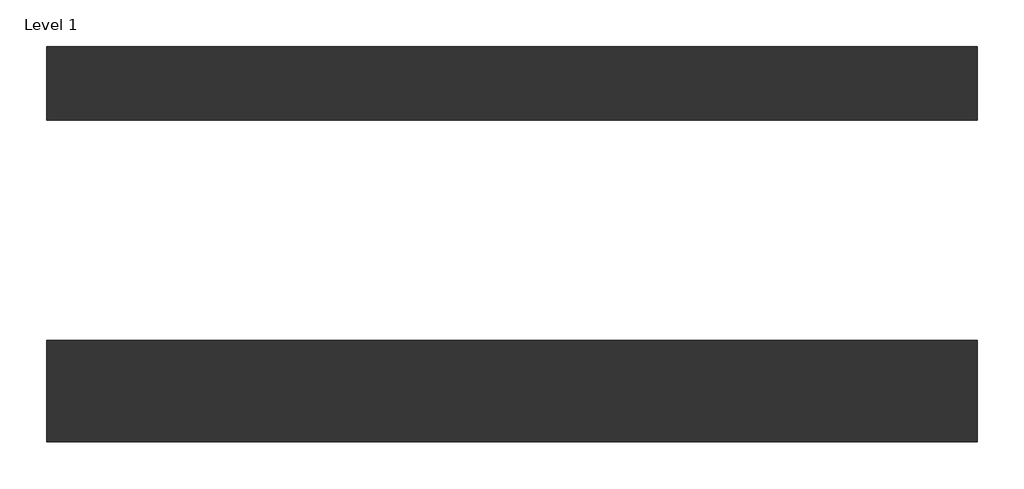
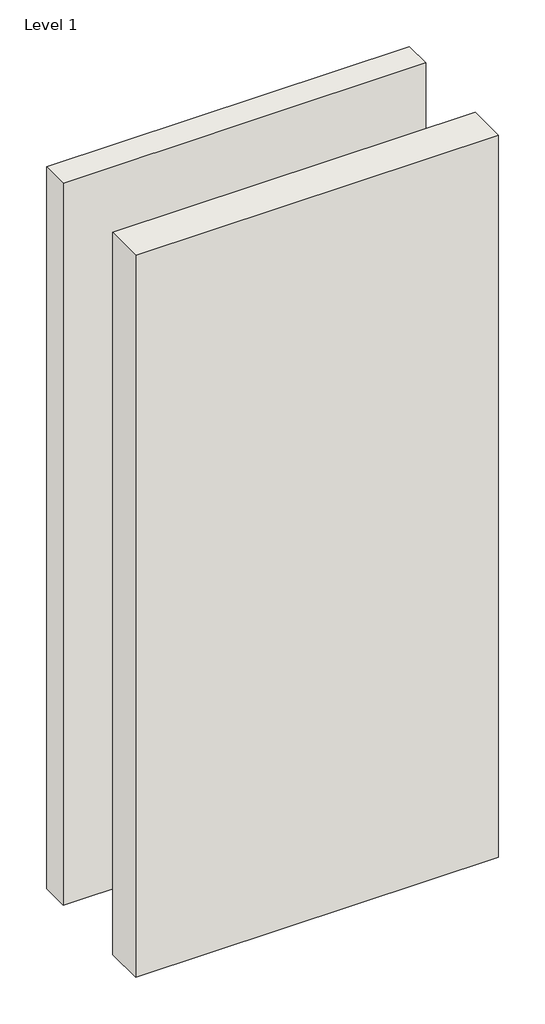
# One storey: 2 walls.
"""IFC4 building model written with IfcOpenShell, lengths in millimetres."""

import ifcopenshell
import ifcopenshell.guid

model = None  # the IFC model being written
_history = None  # IfcOwnerHistory: only IFC2X3 demands one
_inside = {}  # id of a spatial element -> (the spatial element, [elements in it])
_under = {}  # id of a project, library or spatial element -> (it, [spatial elements below it])
_declared = {}  # id of a project -> (the project, [libraries it declares])
_typed = {}  # id of a type object -> (the type object, [elements of that type])
_made_of = {}  # id of a material, layer set ... -> (it, [elements and type objects made of it])


def new_model(schema):
    """Start an empty IFC model of exactly this schema.

    Asked for "IFC4X3", IfcOpenShell would pick the latest addendum, in which some entities
    have other attributes; the version numbers below select the first issue.
    IFC2X3 requires an IfcOwnerHistory on every rooted entity: one is made here for all.
    """
    global model, _history
    if schema == "IFC4X3":
        model = ifcopenshell.file(schema_version=(4, 3, 0, 0))
    else:
        model = ifcopenshell.file(schema=schema)
    _inside.clear()
    _under.clear()
    _declared.clear()
    _typed.clear()
    _made_of.clear()
    _history = None
    if model.schema == "IFC2X3":
        org = make("IfcOrganization", Name="unknown")
        user = make(
            "IfcPersonAndOrganization",
            ThePerson=make("IfcPerson", FamilyName="unknown"),
            TheOrganization=org,
        )
        app = make(
            "IfcApplication",
            ApplicationDeveloper=org,
            Version="unknown",
            ApplicationFullName="unknown",
            ApplicationIdentifier="unknown",
        )
        _history = make(
            "IfcOwnerHistory",
            OwningUser=user,
            OwningApplication=app,
            ChangeAction="ADDED",
            CreationDate=0,
        )
    return model


def make(cls, **values):
    """One entity of the class cls with the attributes given. An attribute that is None is left unset."""
    return model.create_entity(
        cls, **{name: value for name, value in values.items() if value is not None}
    )


def rooted(cls, **values):
    """An entity with a GlobalId (a new one), such as an element, a storey or a relation."""
    return make(cls, GlobalId=ifcopenshell.guid.new(), OwnerHistory=_history, **values)


def si_unit(unit_type, name, prefix=None):
    """IfcSIUnit, for example si_unit("LENGTHUNIT", "METRE", prefix="MILLI")."""
    return make("IfcSIUnit", UnitType=unit_type, Prefix=prefix, Name=name)


def assignment(units):
    """IfcUnitAssignment: the units of a project."""
    return None if units is None else make("IfcUnitAssignment", Units=units)


def point(xyz):
    """IfcCartesianPoint."""
    return None if xyz is None else make("IfcCartesianPoint", Coordinates=xyz)


def direction(xyz):
    """IfcDirection."""
    return None if xyz is None else make("IfcDirection", DirectionRatios=xyz)


def frame(location, z_axis=None, x_axis=None):
    """IfcAxis2Placement3D, a coordinate frame: its origin and axes. An axis left out is left unset."""
    return make(
        "IfcAxis2Placement3D",
        Location=point(location),
        Axis=direction(z_axis),
        RefDirection=direction(x_axis),
    )


def origin():
    """The frame at (0, 0, 0) with its axes left unset."""
    return frame((0.0, 0.0, 0.0))


def origin_with_axes():
    """The frame at (0, 0, 0) with the z axis (0, 0, 1) and the x axis (1, 0, 0) written out."""
    return frame((0.0, 0.0, 0.0), z_axis=(0.0, 0.0, 1.0), x_axis=(1.0, 0.0, 0.0))


def place(relative_to, where):
    """IfcLocalPlacement: puts the frame where relative to a parent placement (None: the world)."""
    return make(
        "IfcLocalPlacement", PlacementRelTo=relative_to, RelativePlacement=where
    )


def context(
    kind, dimensions, precision=None, world=None, true_north=None, identifier=None
):
    """IfcGeometricRepresentationContext, for example the 3D "Model" context."""
    return make(
        "IfcGeometricRepresentationContext",
        ContextIdentifier=identifier,
        ContextType=kind,
        CoordinateSpaceDimension=dimensions,
        Precision=precision,
        WorldCoordinateSystem=world,
        TrueNorth=true_north,
    )


def project(units=None, contexts=None):
    """IfcProject with its units and contexts."""
    return rooted(
        "IfcProject",
        Name="project",
        RepresentationContexts=contexts,
        UnitsInContext=assignment(units),
    )


def spatial(cls, under=None, at=None, **own):
    """A site, building, storey or space (cls), placed at a placement, below another one or the project."""
    s = rooted(cls, ObjectPlacement=at, **own)
    if under is not None:
        _under.setdefault(under.id(), (under, []))[1].append(s)
    return s


def polyline(points):
    """IfcPolyline through the points."""
    return make("IfcPolyline", Points=[point(p) for p in points])


def outline(outer, holes=None, kind="AREA"):
    """IfcArbitraryClosedProfileDef: a profile drawn as a closed curve; with holes, ...WithVoids."""
    if holes is None:
        return make("IfcArbitraryClosedProfileDef", ProfileType=kind, OuterCurve=outer)
    return make(
        "IfcArbitraryProfileDefWithVoids",
        ProfileType=kind,
        OuterCurve=outer,
        InnerCurves=holes,
    )


def extrude(swept, where, along, depth):
    """IfcExtrudedAreaSolid: the profile swept, set in the frame where, extruded along a direction by depth."""
    return make(
        "IfcExtrudedAreaSolid",
        SweptArea=swept,
        Position=where,
        ExtrudedDirection=direction(along),
        Depth=depth,
    )


def shape(context_of_items, identifier, shape_type, items):
    """IfcShapeRepresentation: the items that make up one representation, for example the "Body"."""
    return make(
        "IfcShapeRepresentation",
        ContextOfItems=context_of_items,
        RepresentationIdentifier=identifier,
        RepresentationType=shape_type,
        Items=items,
    )


def made_of(thing, what):
    """Note that an element or type object is made of a material, layer set ...; save() writes the relation."""
    if what is not None:
        _made_of.setdefault(what.id(), (what, []))[1].append(thing)
    return thing


def element(
    cls,
    number,
    at=None,
    inside=None,
    cuts=None,
    type_object=None,
    material=None,
    context=None,
    identifier="Body",
    shape_type=None,
    held_by="IfcProductDefinitionShape",
    body=None,
    shapes=None,
    **own,
):
    """One element of the class cls, such as IfcWall. Its Tag is "e" and its number.

    at: its placement. inside: the storey or other place that contains it. cuts: it is an
    opening in that element (IfcRelVoidsElement). A single representation is given by context,
    identifier, shape_type and body (its items); several are given by shapes. held_by: the class
    of the entity that holds the representations. save() writes the other relations.
    """
    e = rooted(cls, Tag="e%d" % number, ObjectPlacement=at, **own)
    if body is not None:
        shapes = [shape(context, identifier, shape_type, body)]
    if shapes is not None:
        e.Representation = make(held_by, Representations=shapes)
    if inside is not None:
        _inside.setdefault(inside.id(), (inside, []))[1].append(e)
    if cuts is not None:
        rooted(
            "IfcRelVoidsElement", RelatingBuildingElement=cuts, RelatedOpeningElement=e
        )
    if type_object is not None:
        _typed.setdefault(type_object.id(), (type_object, []))[1].append(e)
    return made_of(e, material)


def aggregate(whole, parts):
    """IfcRelAggregates: a whole, such as a stair, and the parts it consists of."""
    return rooted("IfcRelAggregates", RelatingObject=whole, RelatedObjects=parts)


def save(model, path):
    """Write the relations noted so far, then the file.

    IfcRelAggregates (storeys below a building ...), IfcRelContainedInSpatialStructure (elements
    in a storey), IfcRelDefinesByType, IfcRelAssociatesMaterial and IfcRelDeclares: one each for
    every whole, place, type object, material and project.
    """
    for whole, parts in _under.values():
        aggregate(whole, parts)
    for where, things in _inside.values():
        rooted(
            "IfcRelContainedInSpatialStructure",
            RelatedElements=things,
            RelatingStructure=where,
        )
    for kind, things in _typed.values():
        rooted("IfcRelDefinesByType", RelatedObjects=things, RelatingType=kind)
    for what, things in _made_of.values():
        rooted("IfcRelAssociatesMaterial", RelatedObjects=things, RelatingMaterial=what)
    for by, libraries in _declared.values():
        rooted("IfcRelDeclares", RelatingContext=by, RelatedDefinitions=libraries)
    model.write(path)


model = new_model("IFC4")

# Units and contexts
model_context = context("Model", 3, world=origin())
ifc_project = project(units=[si_unit("LENGTHUNIT", "METRE", prefix="MILLI")], contexts=[model_context])

# Site, building, storey
site = spatial("IfcSite", under=ifc_project)
building = spatial("IfcBuilding", under=site)
storey = spatial("IfcBuildingStorey", under=building, Name="Level 1", Elevation=0.0)

# Walls
placement = place(None, origin())
element("IfcWall", 1, ObjectType="Interior-Steel Frame-Staggered Stud-CSR1275-150mm", at=placement, inside=storey, context=model_context, shape_type="SweptSolid", body=[
    extrude(outline(polyline([(-733.2108354, -1079.169571), (1166.7891646, -1079.169571), (1166.7891646, -1229.169571), (-733.2108354, -1229.169571), (-733.2108354, -1079.169571)])), origin_with_axes(), (0.0, 0.0, 1.0), 4000.0),
])
element("IfcWall", 2, ObjectType="Interior-Steel Frame-Staggered Stud-CSR1275-208mm", at=placement, inside=storey, context=model_context, shape_type="SweptSolid", body=[
    extrude(outline(polyline([(-733.2108354, -1679.169571), (1166.7891646, -1679.169571), (1166.7891646, -1887.169571), (-733.2108354, -1887.169571), (-733.2108354, -1679.169571)])), origin_with_axes(), (0.0, 0.0, 1.0), 4000.0),
])

save(model, "model.ifc")
